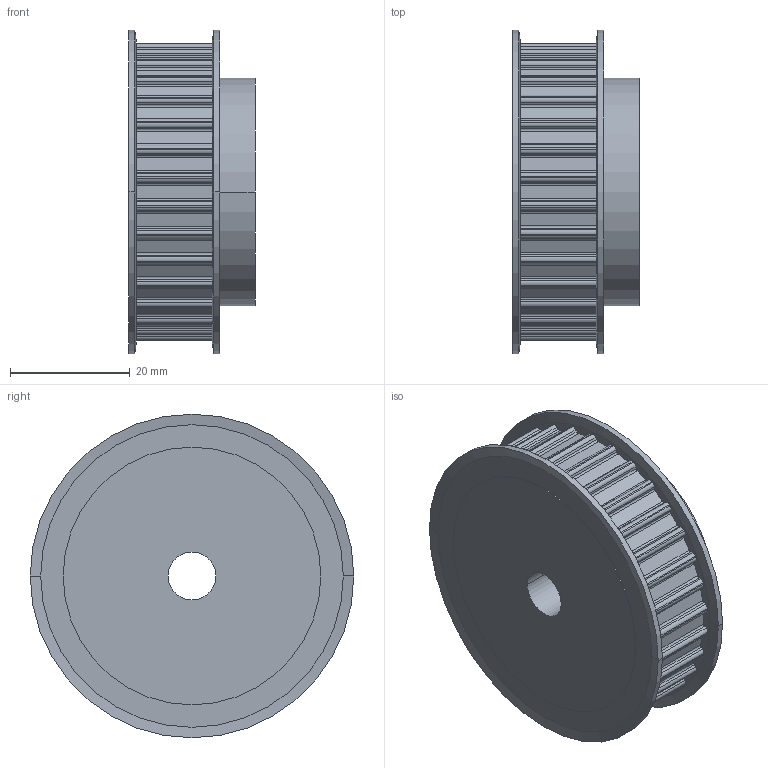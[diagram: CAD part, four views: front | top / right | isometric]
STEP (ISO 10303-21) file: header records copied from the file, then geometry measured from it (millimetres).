
FILE_DESCRIPTION( ( '' ), '1' );
FILE_NAME( 'C:/Users/Stangenbergd/Documents/CAD_Step/1/16623200.stp', '2021-10-19T09:34:27', ( '' ), ( '' ), ' ', ' ', ' ' );
FILE_SCHEMA( ( 'CONFIG_CONTROL_DESIGN' ) );
Length unit declared in the file: millimetre
Products named in the file (1): 1
Bounding box: 21.1 x 54 x 54 mm (x, y, z)
Volume: 33984.8 mm3; surface area: 9409.4 mm2
Topology: 1 solids, 1 shells, 283 faces, 820 edges, 544 vertices
Faces by surface type: cylinder 172, plane 103, cone 8
Entity records: 9510 total; most frequent: DIRECTION 1740, CARTESIAN_POINT 1648, ORIENTED_EDGE 1640, EDGE_CURVE 820, AXIS2_PLACEMENT_3D 636, VERTEX_POINT 544, LINE 468, VECTOR 468
